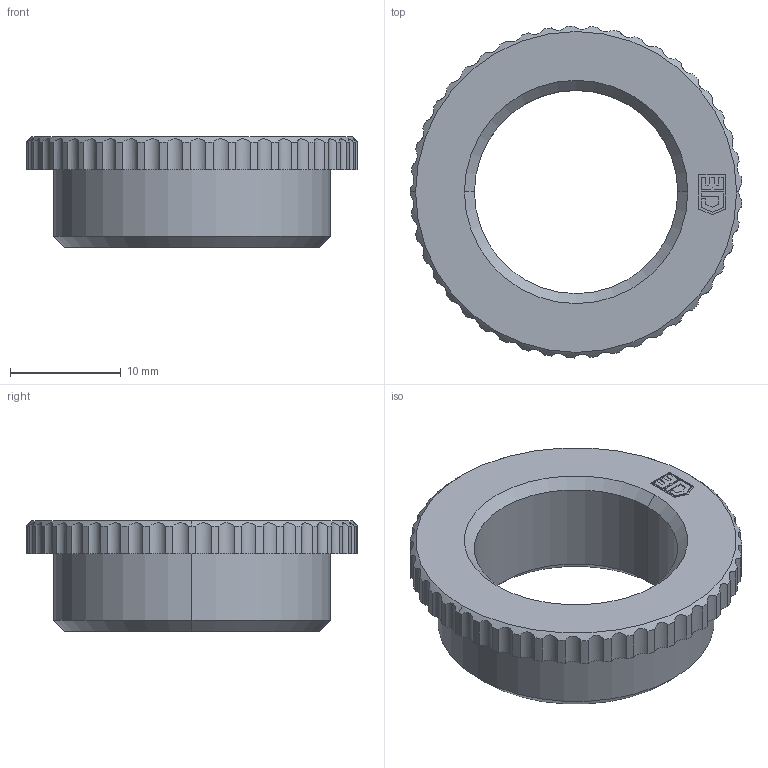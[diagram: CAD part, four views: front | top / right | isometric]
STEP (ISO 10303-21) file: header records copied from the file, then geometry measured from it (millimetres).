
FILE_DESCRIPTION (( 'STEP AP203' ), '1' );
FILE_NAME ('M25M20.STEP', '2005-10-07T10:43:40', ( ' ' ), ( '' ), 'SwSTEP 2.0', 'SolidWorks 2005143', '' );
FILE_SCHEMA (( 'CONFIG_CONTROL_DESIGN' ));
Length unit declared in the file: millimetre
Products named in the file (1): M25M20
Bounding box: 29.98 x 30 x 10 mm (x, y, z)
Volume: 2772.1 mm3; surface area: 2161.5 mm2
Topology: 1 solids, 1 shells, 142 faces, 402 edges, 266 vertices
Faces by surface type: cylinder 94, plane 40, cone 8
Entity records: 5045 total; most frequent: CARTESIAN_POINT 1217, ORIENTED_EDGE 804, DIRECTION 794, EDGE_CURVE 402, AXIS2_PLACEMENT_3D 295, VERTEX_POINT 266, VECTOR 204, LINE 204
